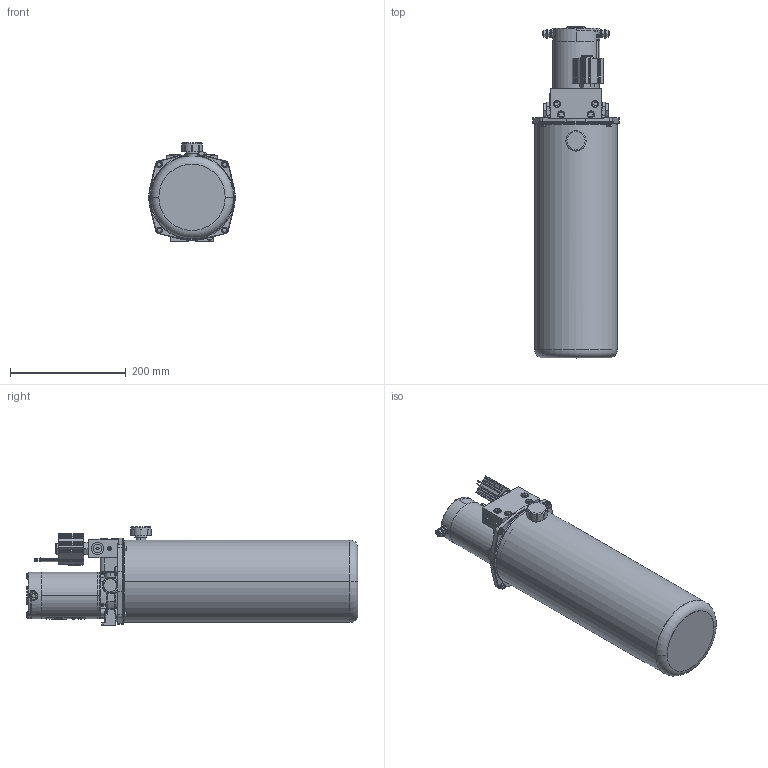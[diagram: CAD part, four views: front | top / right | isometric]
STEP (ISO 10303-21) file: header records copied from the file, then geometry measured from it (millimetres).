
FILE_DESCRIPTION((''),'2;1');
FILE_NAME('645961_SW0001','2014-03-31T',('GB10196'),('OILDYNE'),'PRO/ENGINEER BY PARAMETRIC TECHNOLOGY CORPORATION, 2009300','PRO/ENGINEER BY PARAMETRIC TECHNOLOGY CORPORATION, 2009300','');
FILE_SCHEMA(('CONFIG_CONTROL_DESIGN'));
Products named in the file (1): 645961_SW0001
Bounding box: 148.8 x 572.92 x 170.18 mm (x, y, z)
Surface area: 569970 mm2 (no closed solid volume)
Topology: 0 solids, 132 shells, 1871 faces, 6778 edges, 4849 vertices
Faces by surface type: plane 484, cylinder 474, cone 386, bspline 285, torus 199, sphere 43
Entity records: 94664 total; most frequent: CARTESIAN_POINT 42515, ORIENTED_EDGE 10323, DIRECTION 9909, EDGE_CURVE 6756, VERTEX_POINT 4849, AXIS2_PLACEMENT_3D 3986, B_SPLINE_CURVE_WITH_KNOTS 2419, CIRCLE 2400
